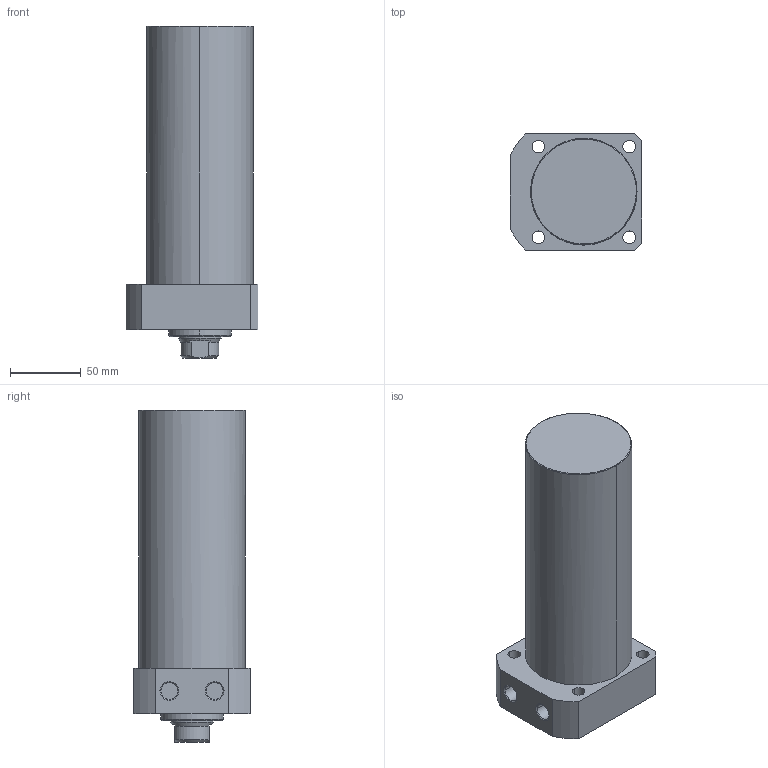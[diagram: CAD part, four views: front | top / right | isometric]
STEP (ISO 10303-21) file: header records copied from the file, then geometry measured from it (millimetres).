
FILE_DESCRIPTION((' '),'2;1');
FILE_NAME( 'TLLR-075CA-145.STEP.stp', '2025-10-24T16:35:07', (' '), ('--- Datakit www.datakit.com---'), ' Datakit CrossCadWare V2024.1 Dec 21 2023', 'Mastercam 2025', ' ');
FILE_SCHEMA(('AUTOMOTIVE_DESIGN { 1 0 10303 214 1 1 1 1 }'));
Length unit declared in the file: millimetre
Products named in the file (1): TLLR-075CA-145
Bounding box: 93 x 82 x 234 mm (x, y, z)
Volume: 1039151.6 mm3; surface area: 76544 mm2
Topology: 1 solids, 1 shells, 63 faces, 177 edges, 122 vertices
Faces by surface type: cylinder 28, plane 19, cone 14, torus 2
Entity records: 2168 total; most frequent: CARTESIAN_POINT 405, DIRECTION 400, ORIENTED_EDGE 350, EDGE_CURVE 175, AXIS2_PLACEMENT_3D 169, VERTEX_POINT 122, CIRCLE 105, EDGE_LOOP 79
